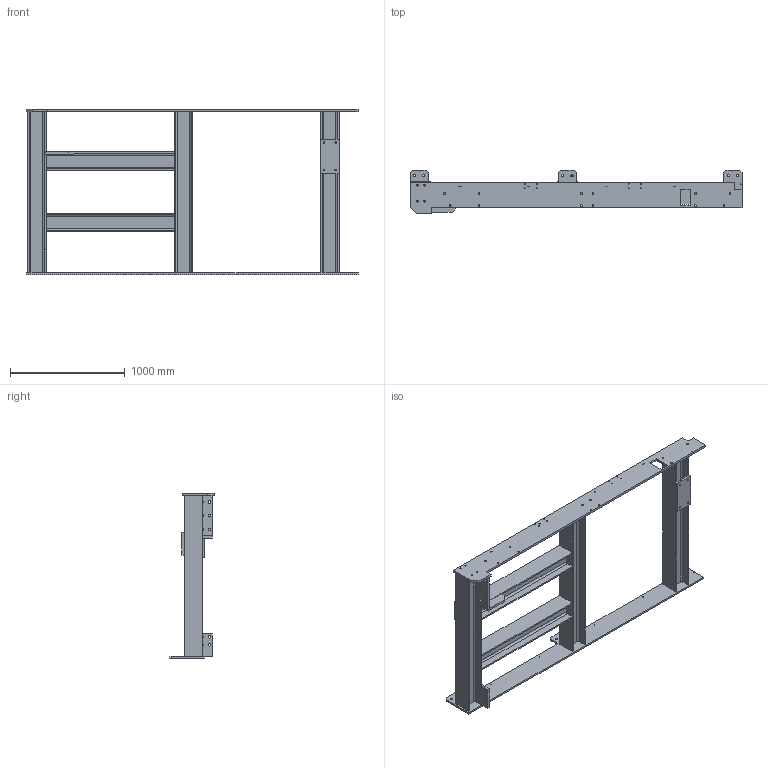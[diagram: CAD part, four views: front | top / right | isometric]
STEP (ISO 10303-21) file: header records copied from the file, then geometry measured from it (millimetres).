
FILE_DESCRIPTION(/* description */ ('Schweißteil'),/* implementation_level */ '2;1');
FILE_NAME(/* name */ '00054977.stp',/* time_stamp */ '2023-08-08T14:38:33+02:00',/* author */ ('MD18'),/* organization */ (''),/* preprocessor_version */ 'ST-DEVELOPER v19.2',/* originating_system */ 'Autodesk Inventor 2023',/* authorisation */ '');
FILE_SCHEMA (('AUTOMOTIVE_DESIGN { 1 0 10303 214 3 1 1 }'));
Length unit declared in the file: millimetre
Products named in the file (11): 00054977; 00054977-S01; 00054977-S04; 00054977-S02; 00054977-S06; 00054977-S07; 00054977-S03; 00054977-S10; 00054977-S05; 00054977-S09; 00054977-S08
Assembly tree (12 placements, depth 2):
  00054977
    00054977-S01
    00054977-S04
    00054977-S02
    00054977-S06  x2
    00054977-S05  x2
    00054977-S07
    00054977-S03
    00054977-S10
    00054977-S09
    00054977-S08
Bounding box: 2890 x 385 x 1439 mm (x, y, z)
Volume: 59458199.2 mm3; surface area: 9062716.4 mm2
Topology: 12 solids, 12 shells, 236 faces, 636 edges, 424 vertices
Faces by surface type: plane 144, cylinder 92
Full cylindrical faces by diameter (mm): 4.134 x8, 4.917 x4, 6.647 x2, 8.376 x12, 10.106 x4, 13.835 x20, 20 x6, 22 x10
Entity records: 7034 total; most frequent: DIRECTION 1154, CARTESIAN_POINT 1123, ORIENTED_EDGE 1080, EDGE_CURVE 540, AXIS2_PLACEMENT_3D 391, LINE 372, VECTOR 372, VERTEX_POINT 360
